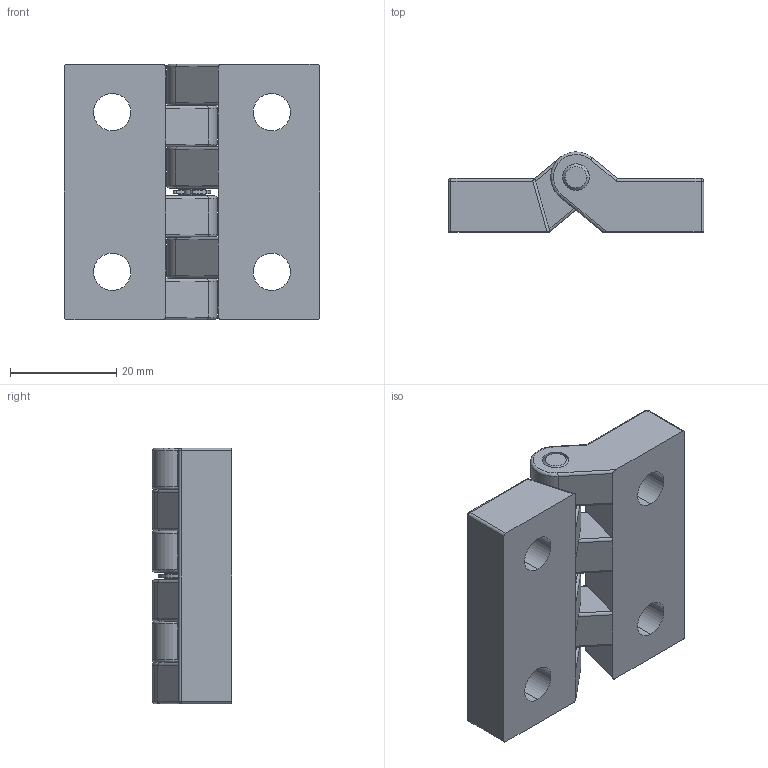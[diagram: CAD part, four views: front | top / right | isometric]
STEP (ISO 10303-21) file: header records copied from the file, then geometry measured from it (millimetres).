
FILE_DESCRIPTION (( 'STEP AP203' ), '1' );
FILE_NAME ('B59 KH-P25.STEP', '2010-10-11T05:46:36', ( ' ' ), ( '' ), 'SwSTEP 2.0', 'SolidWorks 2010', '' );
FILE_SCHEMA (( 'CONFIG_CONTROL_DESIGN' ));
Length unit declared in the file: millimetre
Products named in the file (4): B59 KH-P25; E rings GB_GB_CONNECTING_PIECE_RINGS_HR 3; H022-03-002; H022-03-001
Assembly tree (4 placements, depth 2):
  B59 KH-P25
    H022-03-002
    H022-03-001  x2
    E rings GB_GB_CONNECTING_PIECE_RINGS_HR 3
Bounding box: 48 x 15 x 48 mm (x, y, z)
Volume: 19379 mm3; surface area: 10472.9 mm2
Topology: 4 solids, 4 shells, 176 faces, 422 edges, 256 vertices
Faces by surface type: cylinder 98, plane 54, bspline 20, cone 4
Entity records: 3753 total; most frequent: CARTESIAN_POINT 836, DIRECTION 547, ORIENTED_EDGE 510, EDGE_CURVE 255, AXIS2_PLACEMENT_3D 212, VERTEX_POINT 158, VECTOR 123, LINE 123
